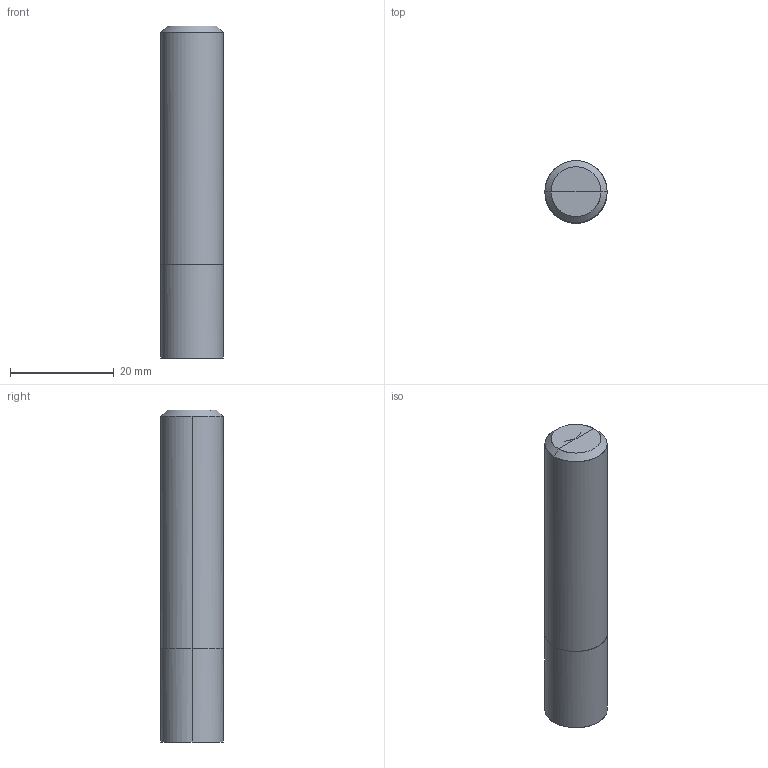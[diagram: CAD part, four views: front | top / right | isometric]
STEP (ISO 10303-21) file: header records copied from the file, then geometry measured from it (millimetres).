
FILE_DESCRIPTION(/* description */ (''),/* implementation_level */ '2;1');
FILE_NAME(/*name*/ '5031-12F',/*time_stamp*/'2021-4-28T11:30:13',/*author*/ ('ISBE GmbH'),/*organization*/ ('ISBE GmbH'),/*preprocessor_version*/ 'STEP IO v1.0',/*originating_system*/ '',/*authorisation*/ '');
FILE_SCHEMA (('AUTOMOTIVE_DESIGN'));
Length unit declared in the file: millimetre
Products named in the file (1): Document
Bounding box: 12 x 11.98 x 64 mm (x, y, z)
Surface area: 2840.7 mm2 (no closed solid volume)
Topology: 0 solids, 14 shells, 14 faces, 61 edges, 58 vertices
Faces by surface type: bspline 14
Entity records: 1473 total; most frequent: CARTESIAN_POINT 1196, VERTEX_POINT 48, EDGE_CURVE 48, ORIENTED_EDGE 48, DIRECTION 16, EDGE_LOOP 14, FACE_OUTER_BOUND 14, ADVANCED_FACE 14
